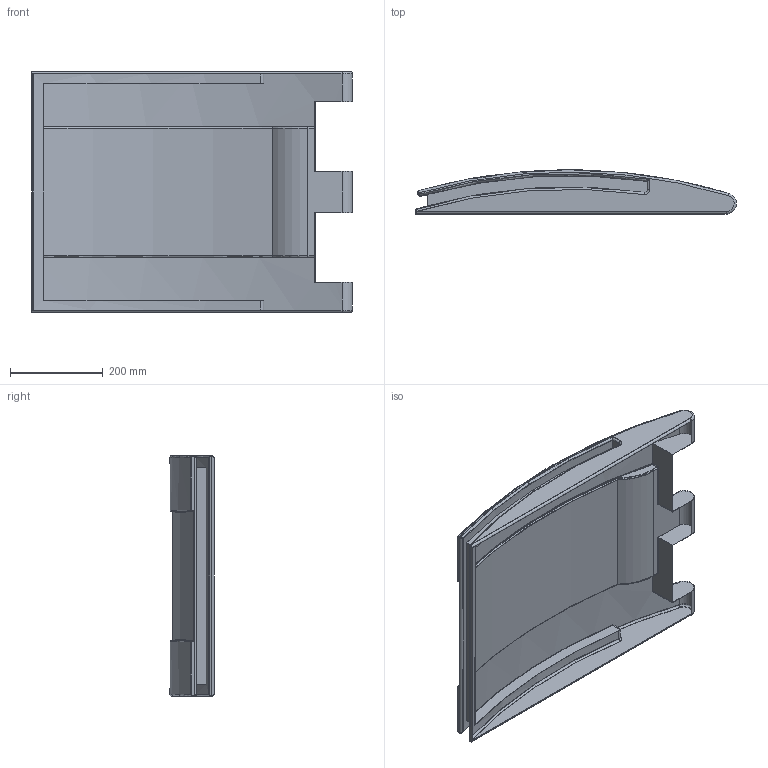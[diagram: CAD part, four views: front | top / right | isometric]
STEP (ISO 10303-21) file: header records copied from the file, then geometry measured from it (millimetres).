
FILE_DESCRIPTION (( 'STEP AP203' ), '1' );
FILE_NAME ('Couvercle_poubelle.STEP', '2008-11-03T11:13:10', ( 'Thomas Merta' ), ( 'SBS Sondermaschinen GmbH' ), 'SwSTEP 2.0', 'SolidWorks 2008', '' );
FILE_SCHEMA (( 'CONFIG_CONTROL_DESIGN' ));
Length unit declared in the file: millimetre
Products named in the file (1): Couvercle_poubelle
Bounding box: 692.4 x 95.13 x 520 mm (x, y, z)
Volume: 578181.6 mm3; surface area: 1158962.4 mm2
Topology: 1 solids, 1 shells, 160 faces, 388 edges, 226 vertices
Faces by surface type: cylinder 60, plane 44, torus 40, bspline 12, sphere 4
Entity records: 5873 total; most frequent: CARTESIAN_POINT 2103, DIRECTION 812, ORIENTED_EDGE 768, EDGE_CURVE 384, AXIS2_PLACEMENT_3D 325, VERTEX_POINT 226, CIRCLE 176, VECTOR 162
